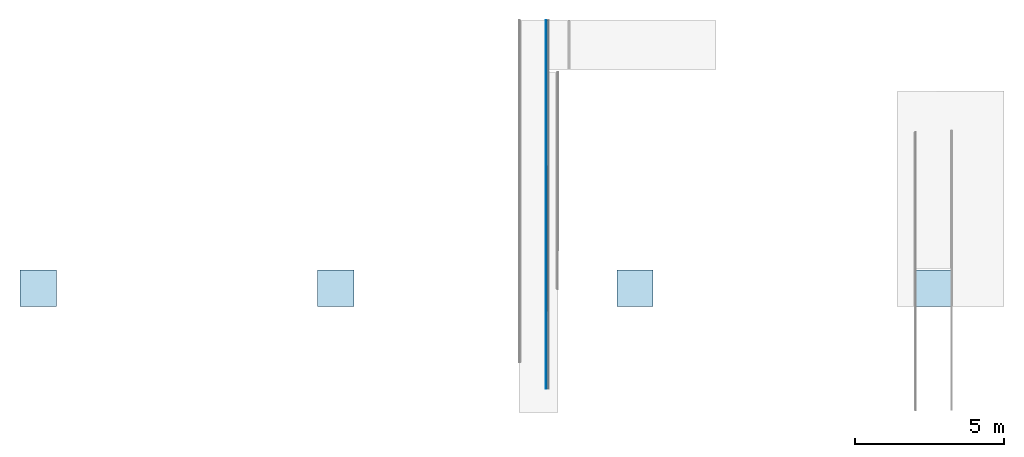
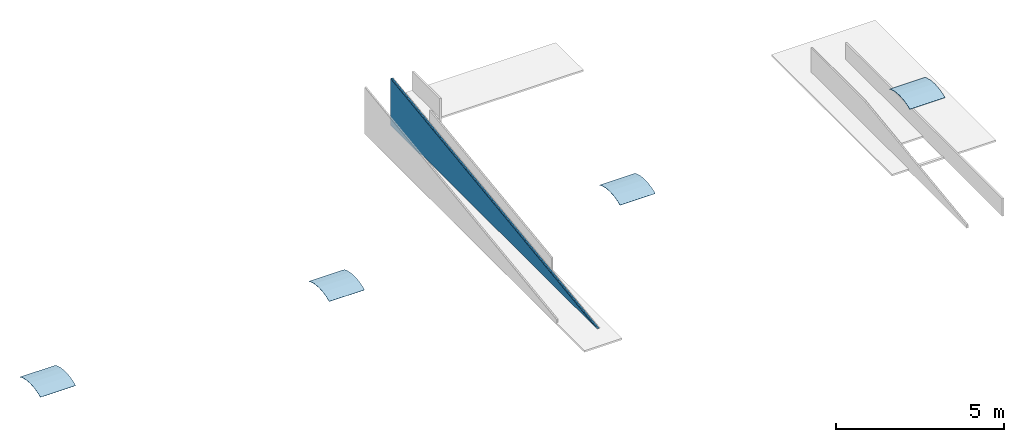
# One storey, part 2 of 4: 4 slabs, 2 building element parts, 1 element without a shape of its own.
"""IFC2X3 building model written with IfcOpenShell, lengths in metres."""

import ifcopenshell
import ifcopenshell.guid

model = None  # the IFC model being written
_history = None  # IfcOwnerHistory: only IFC2X3 demands one
_inside = {}  # id of a spatial element -> (the spatial element, [elements in it])
_under = {}  # id of a project, library or spatial element -> (it, [spatial elements below it])
_declared = {}  # id of a project -> (the project, [libraries it declares])
_typed = {}  # id of a type object -> (the type object, [elements of that type])
_made_of = {}  # id of a material, layer set ... -> (it, [elements and type objects made of it])


def new_model(schema):
    """Start an empty IFC model of exactly this schema.

    Asked for "IFC4X3", IfcOpenShell would pick the latest addendum, in which some entities
    have other attributes; the version numbers below select the first issue.
    IFC2X3 requires an IfcOwnerHistory on every rooted entity: one is made here for all.
    """
    global model, _history
    if schema == "IFC4X3":
        model = ifcopenshell.file(schema_version=(4, 3, 0, 0))
    else:
        model = ifcopenshell.file(schema=schema)
    _inside.clear()
    _under.clear()
    _declared.clear()
    _typed.clear()
    _made_of.clear()
    _history = None
    if model.schema == "IFC2X3":
        org = make("IfcOrganization", Name="unknown")
        user = make(
            "IfcPersonAndOrganization",
            ThePerson=make("IfcPerson", FamilyName="unknown"),
            TheOrganization=org,
        )
        app = make(
            "IfcApplication",
            ApplicationDeveloper=org,
            Version="unknown",
            ApplicationFullName="unknown",
            ApplicationIdentifier="unknown",
        )
        _history = make(
            "IfcOwnerHistory",
            OwningUser=user,
            OwningApplication=app,
            ChangeAction="ADDED",
            CreationDate=0,
        )
    return model


def make(cls, **values):
    """One entity of the class cls with the attributes given. An attribute that is None is left unset."""
    return model.create_entity(
        cls, **{name: value for name, value in values.items() if value is not None}
    )


def entity(cls, *values):
    """Any entity or typed value of the class cls, its attributes in the order of the schema. None: left unset."""
    e = model.create_entity(cls)
    for i, value in enumerate(values):
        if value is not None:
            e[i] = value
    return e


def rooted(cls, **values):
    """An entity with a GlobalId (a new one), such as an element, a storey or a relation."""
    return make(cls, GlobalId=ifcopenshell.guid.new(), OwnerHistory=_history, **values)


def si_unit(unit_type, name, prefix=None):
    """IfcSIUnit, for example si_unit("LENGTHUNIT", "METRE", prefix="MILLI")."""
    return make("IfcSIUnit", UnitType=unit_type, Prefix=prefix, Name=name)


def converted_unit(unit_type, name, factor, base, dimensions=None, offset=None):
    """IfcConversionBasedUnit, such as the inch: factor (a typed value) times the base unit."""
    return make(
        "IfcConversionBasedUnit"
        if offset is None
        else "IfcConversionBasedUnitWithOffset",
        ConversionOffset=offset,
        Dimensions=None
        if dimensions is None
        else entity("IfcDimensionalExponents", *dimensions),
        UnitType=unit_type,
        Name=name,
        ConversionFactor=make(
            "IfcMeasureWithUnit", ValueComponent=factor, UnitComponent=base
        ),
    )


def derived_unit(unit_type, elements):
    """IfcDerivedUnit: a product of units, each with its exponent."""
    return make(
        "IfcDerivedUnit",
        Elements=[
            make("IfcDerivedUnitElement", Unit=unit, Exponent=power)
            for unit, power in elements
        ],
        UnitType=unit_type,
    )


def money_unit(currency):
    """IfcMonetaryUnit."""
    return make("IfcMonetaryUnit", Currency=currency)


def assignment(units):
    """IfcUnitAssignment: the units of a project."""
    return None if units is None else make("IfcUnitAssignment", Units=units)


def point(xyz):
    """IfcCartesianPoint."""
    return None if xyz is None else make("IfcCartesianPoint", Coordinates=xyz)


def direction(xyz):
    """IfcDirection."""
    return None if xyz is None else make("IfcDirection", DirectionRatios=xyz)


def frame(location, z_axis=None, x_axis=None):
    """IfcAxis2Placement3D, a coordinate frame: its origin and axes. An axis left out is left unset."""
    return make(
        "IfcAxis2Placement3D",
        Location=point(location),
        Axis=direction(z_axis),
        RefDirection=direction(x_axis),
    )


def origin_with_axes():
    """The frame at (0, 0, 0) with the z axis (0, 0, 1) and the x axis (1, 0, 0) written out."""
    return frame((0.0, 0.0, 0.0), z_axis=(0.0, 0.0, 1.0), x_axis=(1.0, 0.0, 0.0))


def place(relative_to, where):
    """IfcLocalPlacement: puts the frame where relative to a parent placement (None: the world)."""
    return make(
        "IfcLocalPlacement", PlacementRelTo=relative_to, RelativePlacement=where
    )


def context(
    kind, dimensions, precision=None, world=None, true_north=None, identifier=None
):
    """IfcGeometricRepresentationContext, for example the 3D "Model" context."""
    return make(
        "IfcGeometricRepresentationContext",
        ContextIdentifier=identifier,
        ContextType=kind,
        CoordinateSpaceDimension=dimensions,
        Precision=precision,
        WorldCoordinateSystem=world,
        TrueNorth=true_north,
    )


def subcontext(parent, identifier, kind, view, scale=None):
    """IfcGeometricRepresentationSubContext, for example "Body" below "Model"."""
    return make(
        "IfcGeometricRepresentationSubContext",
        ContextIdentifier=identifier,
        ContextType=kind,
        ParentContext=parent,
        TargetScale=scale,
        TargetView=view,
    )


def project(units=None, contexts=None):
    """IfcProject with its units and contexts."""
    return rooted(
        "IfcProject",
        Name="project",
        RepresentationContexts=contexts,
        UnitsInContext=assignment(units),
    )


def spatial(cls, under=None, at=None, **own):
    """A site, building, storey or space (cls), placed at a placement, below another one or the project."""
    s = rooted(cls, ObjectPlacement=at, **own)
    if under is not None:
        _under.setdefault(under.id(), (under, []))[1].append(s)
    return s


def polyline(points):
    """IfcPolyline through the points."""
    return make("IfcPolyline", Points=[point(p) for p in points])


def outline(outer, holes=None, kind="AREA"):
    """IfcArbitraryClosedProfileDef: a profile drawn as a closed curve; with holes, ...WithVoids."""
    if holes is None:
        return make("IfcArbitraryClosedProfileDef", ProfileType=kind, OuterCurve=outer)
    return make(
        "IfcArbitraryProfileDefWithVoids",
        ProfileType=kind,
        OuterCurve=outer,
        InnerCurves=holes,
    )


def extrude(swept, where, along, depth):
    """IfcExtrudedAreaSolid: the profile swept, set in the frame where, extruded along a direction by depth."""
    return make(
        "IfcExtrudedAreaSolid",
        SweptArea=swept,
        Position=where,
        ExtrudedDirection=direction(along),
        Depth=depth,
    )


def boolean(op, a, b):
    """IfcBooleanResult of two solids."""
    return make("IfcBooleanResult", Operator=op, FirstOperand=a, SecondOperand=b)


def faces_of(points, faces, orient=None, outer=None):
    """IfcFace entities. A face is a list of loops; a loop is a list of indices into points, from 0.

    orient and outer hold one flag for each loop. By default every Orientation is true, the
    first loop of a face is its IfcFaceOuterBound and the others are IfcFaceBound.
    """
    made = []
    for i, loops in enumerate(faces):
        bounds = []
        for j, loop in enumerate(loops):
            is_outer = j == 0 if outer is None else outer[i][j]
            bounds.append(
                make(
                    "IfcFaceOuterBound" if is_outer else "IfcFaceBound",
                    Bound=make("IfcPolyLoop", Polygon=[points[k] for k in loop]),
                    Orientation=True if orient is None else orient[i][j],
                )
            )
        made.append(make("IfcFace", Bounds=bounds))
    return made


def faceted_brep(points, faces, orient=None, outer=None, voids=None):
    """IfcFacetedBrep: a solid bounded by flat faces; with voids (closed shells), ...WithVoids."""
    shared = [point(p) for p in points]
    hull = make("IfcClosedShell", CfsFaces=faces_of(shared, faces, orient, outer))
    if voids is None:
        return make("IfcFacetedBrep", Outer=hull)
    return make(
        "IfcFacetedBrepWithVoids",
        Outer=hull,
        Voids=[
            make(cls, CfsFaces=faces_of(shared, fs, o, b)) for cls, fs, o, b in voids
        ],
    )


def shape(context_of_items, identifier, shape_type, items):
    """IfcShapeRepresentation: the items that make up one representation, for example the "Body"."""
    return make(
        "IfcShapeRepresentation",
        ContextOfItems=context_of_items,
        RepresentationIdentifier=identifier,
        RepresentationType=shape_type,
        Items=items,
    )


def material(Name=None, Category=None):
    """IfcMaterial."""
    return make("IfcMaterial", Name=Name, Category=Category)


def made_of(thing, what):
    """Note that an element or type object is made of a material, layer set ...; save() writes the relation."""
    if what is not None:
        _made_of.setdefault(what.id(), (what, []))[1].append(thing)
    return thing


def type_object(cls, material=None, **own):
    """A type object (cls), such as IfcWallType, which elements share."""
    return made_of(rooted(cls, **own), material)


def element(
    cls,
    number,
    at=None,
    inside=None,
    cuts=None,
    type_object=None,
    material=None,
    context=None,
    identifier="Body",
    shape_type=None,
    held_by="IfcProductDefinitionShape",
    body=None,
    shapes=None,
    **own,
):
    """One element of the class cls, such as IfcWall. Its Tag is "e" and its number.

    at: its placement. inside: the storey or other place that contains it. cuts: it is an
    opening in that element (IfcRelVoidsElement). A single representation is given by context,
    identifier, shape_type and body (its items); several are given by shapes. held_by: the class
    of the entity that holds the representations. save() writes the other relations.
    """
    e = rooted(cls, Tag="e%d" % number, ObjectPlacement=at, **own)
    if body is not None:
        shapes = [shape(context, identifier, shape_type, body)]
    if shapes is not None:
        e.Representation = make(held_by, Representations=shapes)
    if inside is not None:
        _inside.setdefault(inside.id(), (inside, []))[1].append(e)
    if cuts is not None:
        rooted(
            "IfcRelVoidsElement", RelatingBuildingElement=cuts, RelatedOpeningElement=e
        )
    if type_object is not None:
        _typed.setdefault(type_object.id(), (type_object, []))[1].append(e)
    return made_of(e, material)


def aggregate(whole, parts):
    """IfcRelAggregates: a whole, such as a stair, and the parts it consists of."""
    return rooted("IfcRelAggregates", RelatingObject=whole, RelatedObjects=parts)


def save(model, path):
    """Write the relations noted so far, then the file.

    IfcRelAggregates (storeys below a building ...), IfcRelContainedInSpatialStructure (elements
    in a storey), IfcRelDefinesByType, IfcRelAssociatesMaterial and IfcRelDeclares: one each for
    every whole, place, type object, material and project.
    """
    for whole, parts in _under.values():
        aggregate(whole, parts)
    for where, things in _inside.values():
        rooted(
            "IfcRelContainedInSpatialStructure",
            RelatedElements=things,
            RelatingStructure=where,
        )
    for kind, things in _typed.values():
        rooted("IfcRelDefinesByType", RelatedObjects=things, RelatingType=kind)
    for what, things in _made_of.values():
        rooted("IfcRelAssociatesMaterial", RelatedObjects=things, RelatingMaterial=what)
    for by, libraries in _declared.values():
        rooted("IfcRelDeclares", RelatingContext=by, RelatedDefinitions=libraries)
    model.write(path)


model = new_model("IFC2X3")

# Units and contexts
model_context = context("Model", 3, precision=1e-05, world=origin_with_axes(), true_north=direction((0.0, 1.0)))
body_context = subcontext(model_context, "Body", "Model", "MODEL_VIEW")
ifc_project = project(units=[si_unit("LENGTHUNIT", "METRE"), si_unit("AREAUNIT", "SQUARE_METRE"), si_unit("VOLUMEUNIT", "CUBIC_METRE"), converted_unit("PLANEANGLEUNIT", "DEGREE", entity("IfcPlaneAngleMeasure", 0.0174532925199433), si_unit("PLANEANGLEUNIT", "RADIAN"), dimensions=[0, 0, 0, 0, 0, 0, 0]), money_unit("CHF"), converted_unit("TIMEUNIT", "Year", entity("IfcTimeMeasure", 31557600.0), si_unit("TIMEUNIT", "SECOND"), dimensions=[0, 0, 1, 0, 0, 0, 0]), si_unit("MASSUNIT", "GRAM", prefix="KILO"), si_unit("THERMODYNAMICTEMPERATUREUNIT", "DEGREE_CELSIUS"), si_unit("LUMINOUSINTENSITYUNIT", "LUMEN"), si_unit("ENERGYUNIT", "JOULE", prefix="MEGA"), derived_unit("THERMALCONDUCTANCEUNIT", [(si_unit("POWERUNIT", "WATT"), 1), (si_unit("LENGTHUNIT", "METRE"), -1), (si_unit("THERMODYNAMICTEMPERATUREUNIT", "KELVIN"), -1)]), derived_unit("SPECIFICHEATCAPACITYUNIT", [(si_unit("ENERGYUNIT", "JOULE"), 1), (si_unit("MASSUNIT", "GRAM", prefix="KILO"), -1), (si_unit("THERMODYNAMICTEMPERATUREUNIT", "KELVIN"), -1)]), derived_unit("MASSDENSITYUNIT", [(si_unit("MASSUNIT", "GRAM", prefix="KILO"), 1), (si_unit("VOLUMEUNIT", "CUBIC_METRE"), -1)])], contexts=[model_context])

# Site, building, storey
site_placement = place(None, origin_with_axes())
site = spatial("IfcSite", under=ifc_project, at=site_placement, Name="Site", CompositionType="ELEMENT")
building_placement = place(site_placement, origin_with_axes())
building = spatial("IfcBuilding", under=site, at=building_placement, Name="Bâtiment", CompositionType="ELEMENT")
storey_placement = place(building_placement, frame((0.0, 0.0, 4.85), z_axis=(0.0, 0.0, 1.0), x_axis=(1.0, 0.0, 0.0)))
storey = spatial("IfcBuildingStorey", under=building, at=storey_placement, Name="1er étage", CompositionType="ELEMENT", Elevation=4.85)

# Slabs
ifc_material_1 = material(Name="Vitrage")
slab_type = type_object("IfcSlabType", Name="Vitrage 10", PredefinedType="ROOF")
slab_1_placement = place(storey_placement, frame((0.0, 0.0, -4.85), z_axis=(0.0, 0.0, 1.0), x_axis=(1.0, 0.0, 0.0)))
element("IfcSlab", 1, at=slab_1_placement, inside=storey, type_object=slab_type, material=ifc_material_1, Name="COQUE-008", PredefinedType="ROOF", context=body_context, shape_type="Brep", body=[
    faceted_brep([(10.43095020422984, 14.52359783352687, 4.939206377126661), (10.43095020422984, 14.63941148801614, 4.992402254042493), (9.214885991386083, 14.63941148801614, 4.992402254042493), (10.43095020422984, 14.52777181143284, 4.9301191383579), (10.43095020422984, 14.64279043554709, 4.982949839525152), (10.43095020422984, 14.88768081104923, 5.047060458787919), (10.43095020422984, 15.13998344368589, 5.067672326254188), (10.43095020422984, 15.3920322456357, 5.044159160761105), (10.43095020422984, 15.63616460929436, 4.977236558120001), (10.43095020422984, 15.73548684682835, 4.93011844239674), (10.43095020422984, 15.7396611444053, 4.939206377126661), (10.43095020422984, 15.63965631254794, 4.986648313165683), (10.43095020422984, 15.39383219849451, 5.054034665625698), (10.43095020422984, 15.14004118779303, 5.077710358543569), (10.43095020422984, 14.88599459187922, 5.056956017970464), (9.214885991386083, 14.88599459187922, 5.056956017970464), (9.214885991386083, 14.52359783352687, 4.939206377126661), (9.214885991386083, 14.64279043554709, 4.982949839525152), (9.214885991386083, 14.88768081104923, 5.047060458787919), (9.214885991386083, 15.13998344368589, 5.067672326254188), (9.214885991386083, 15.3920322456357, 5.044159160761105), (9.214885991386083, 15.63616460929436, 4.977236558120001), (9.214885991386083, 15.73548684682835, 4.93011844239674), (9.214885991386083, 15.7396611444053, 4.939206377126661), (9.214885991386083, 15.63965631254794, 4.986648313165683), (9.214885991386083, 15.39383219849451, 5.054034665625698), (9.214885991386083, 15.14004118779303, 5.077710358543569), (9.214885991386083, 14.52777181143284, 4.9301191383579)], [[[0, 1, 2]], [[1, 0, 3, 4, 5, 6, 7, 8, 9, 10, 11, 12, 13, 14]], [[15, 2, 1]], [[2, 16, 0]], [[0, 16, 3]], [[3, 17, 4]], [[4, 18, 5]], [[5, 19, 6]], [[6, 20, 7]], [[7, 21, 8]], [[8, 22, 9]], [[23, 10, 9]], [[11, 10, 23]], [[12, 11, 24]], [[13, 12, 25]], [[14, 13, 26]], [[1, 14, 15]], [[16, 2, 15, 26, 25, 24, 23, 22, 21, 20, 19, 18, 17, 27]], [[3, 16, 27]], [[17, 3, 27]], [[18, 4, 17]], [[19, 5, 18]], [[20, 6, 19]], [[21, 7, 20]], [[22, 8, 21]], [[23, 9, 22]], [[23, 24, 11]], [[24, 25, 12]], [[25, 26, 13]], [[26, 15, 14]]]),
])
slab_2_placement = place(storey_placement, frame((0.0, 0.0, -4.85), z_axis=(0.0, 0.0, 1.0), x_axis=(1.0, 0.0, 0.0)))
element("IfcSlab", 2, at=slab_2_placement, inside=storey, type_object=slab_type, material=ifc_material_1, Name="COQUE-008", PredefinedType="ROOF", context=body_context, shape_type="Brep", body=[
    faceted_brep([(20.38080163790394, 14.52359783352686, 4.939206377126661), (20.38080163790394, 14.63941148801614, 4.992402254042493), (19.16473742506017, 14.63941148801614, 4.992402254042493), (20.38080163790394, 14.52777181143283, 4.9301191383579), (20.38080163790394, 14.64279043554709, 4.982949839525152), (20.38080163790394, 14.88768081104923, 5.047060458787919), (20.38080163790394, 15.13998344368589, 5.067672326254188), (20.38080163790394, 15.3920322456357, 5.044159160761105), (20.38080163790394, 15.63616460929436, 4.977236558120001), (20.38080163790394, 15.73548684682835, 4.93011844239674), (20.38080163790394, 15.7396611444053, 4.939206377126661), (20.38080163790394, 15.63965631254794, 4.986648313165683), (20.38080163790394, 15.39383219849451, 5.054034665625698), (20.38080163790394, 15.14004118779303, 5.077710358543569), (20.38080163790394, 14.88599459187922, 5.056956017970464), (19.16473742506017, 14.88599459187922, 5.056956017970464), (19.16473742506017, 14.52359783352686, 4.939206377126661), (19.16473742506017, 14.64279043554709, 4.982949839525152), (19.16473742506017, 14.88768081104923, 5.047060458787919), (19.16473742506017, 15.13998344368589, 5.067672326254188), (19.16473742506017, 15.39203224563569, 5.044159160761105), (19.16473742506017, 15.63616460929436, 4.977236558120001), (19.16473742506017, 15.73548684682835, 4.93011844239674), (19.16473742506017, 15.7396611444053, 4.939206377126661), (19.16473742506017, 15.63965631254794, 4.986648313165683), (19.16473742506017, 15.39383219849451, 5.054034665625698), (19.16473742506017, 15.14004118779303, 5.077710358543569), (19.16473742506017, 14.52777181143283, 4.9301191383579)], [[[0, 1, 2]], [[1, 0, 3, 4, 5, 6, 7, 8, 9, 10, 11, 12, 13, 14]], [[15, 2, 1]], [[2, 16, 0]], [[0, 16, 3]], [[3, 17, 4]], [[4, 18, 5]], [[5, 19, 6]], [[6, 20, 7]], [[7, 21, 8]], [[8, 22, 9]], [[23, 10, 9]], [[11, 10, 23]], [[12, 11, 24]], [[13, 12, 25]], [[14, 13, 26]], [[1, 14, 15]], [[16, 2, 15, 26, 25, 24, 23, 22, 21, 20, 19, 18, 17, 27]], [[3, 16, 27]], [[17, 3, 27]], [[18, 4, 17]], [[19, 5, 18]], [[20, 6, 19]], [[21, 7, 20]], [[22, 8, 21]], [[23, 9, 22]], [[23, 24, 11]], [[24, 25, 12]], [[25, 26, 13]], [[26, 15, 14]]]),
])
slab_3_placement = place(storey_placement, frame((0.0, 0.0, -4.85), z_axis=(0.0, 0.0, 1.0), x_axis=(1.0, 0.0, 0.0)))
element("IfcSlab", 3, at=slab_3_placement, inside=storey, type_object=slab_type, material=ifc_material_1, Name="COQUE-008", PredefinedType="ROOF", context=body_context, shape_type="Brep", body=[
    faceted_brep([(30.39612928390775, 14.52359783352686, 4.939206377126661), (30.39612928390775, 14.63941148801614, 4.992402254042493), (29.18006507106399, 14.63941148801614, 4.992402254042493), (30.39612928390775, 14.52777181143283, 4.9301191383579), (30.39612928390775, 14.64279043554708, 4.982949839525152), (30.39612928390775, 14.88768081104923, 5.047060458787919), (30.39612928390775, 15.13998344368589, 5.067672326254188), (30.39612928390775, 15.39203224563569, 5.044159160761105), (30.39612928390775, 15.63616460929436, 4.977236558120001), (30.39612928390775, 15.73548684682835, 4.93011844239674), (30.39612928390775, 15.7396611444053, 4.939206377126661), (30.39612928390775, 15.63965631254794, 4.986648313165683), (30.39612928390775, 15.39383219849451, 5.054034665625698), (30.39612928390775, 15.14004118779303, 5.077710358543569), (30.39612928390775, 14.88599459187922, 5.056956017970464), (29.18006507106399, 14.88599459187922, 5.056956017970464), (29.18006507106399, 14.52359783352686, 4.939206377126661), (29.18006507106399, 14.64279043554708, 4.982949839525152), (29.18006507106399, 14.88768081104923, 5.047060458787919), (29.18006507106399, 15.13998344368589, 5.067672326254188), (29.18006507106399, 15.39203224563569, 5.044159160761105), (29.18006507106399, 15.63616460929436, 4.977236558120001), (29.18006507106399, 15.73548684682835, 4.93011844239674), (29.18006507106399, 15.7396611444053, 4.939206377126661), (29.18006507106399, 15.63965631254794, 4.986648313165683), (29.18006507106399, 15.39383219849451, 5.054034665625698), (29.18006507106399, 15.14004118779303, 5.077710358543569), (29.18006507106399, 14.52777181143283, 4.9301191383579)], [[[0, 1, 2]], [[1, 0, 3, 4, 5, 6, 7, 8, 9, 10, 11, 12, 13, 14]], [[15, 2, 1]], [[2, 16, 0]], [[0, 16, 3]], [[3, 17, 4]], [[4, 18, 5]], [[5, 19, 6]], [[6, 20, 7]], [[7, 21, 8]], [[8, 22, 9]], [[23, 10, 9]], [[11, 10, 23]], [[12, 11, 24]], [[13, 12, 25]], [[14, 13, 26]], [[1, 14, 15]], [[16, 2, 15, 26, 25, 24, 23, 22, 21, 20, 19, 18, 17, 27]], [[3, 16, 27]], [[17, 3, 27]], [[18, 4, 17]], [[19, 5, 18]], [[20, 6, 19]], [[21, 7, 20]], [[22, 8, 21]], [[23, 9, 22]], [[23, 24, 11]], [[24, 25, 12]], [[25, 26, 13]], [[26, 15, 14]]]),
])
slab_4_placement = place(storey_placement, frame((0.0, 0.0, -4.85), z_axis=(0.0, 0.0, 1.0), x_axis=(1.0, 0.0, 0.0)))
element("IfcSlab", 4, at=slab_4_placement, inside=storey, type_object=slab_type, material=ifc_material_1, Name="COQUE-008", PredefinedType="ROOF", context=body_context, shape_type="Brep", body=[
    faceted_brep([(40.37637428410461, 14.52359783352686, 4.939206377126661), (40.37637428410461, 14.63941148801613, 4.992402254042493), (39.16031007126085, 14.63941148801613, 4.992402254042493), (40.37637428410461, 14.52777181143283, 4.9301191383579), (40.37637428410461, 14.64279043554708, 4.982949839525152), (40.37637428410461, 14.88768081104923, 5.047060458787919), (40.37637428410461, 15.13998344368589, 5.067672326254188), (40.37637428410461, 15.39203224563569, 5.044159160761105), (40.37637428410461, 15.63616460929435, 4.977236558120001), (40.37637428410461, 15.73548684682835, 4.93011844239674), (40.37637428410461, 15.7396611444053, 4.939206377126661), (40.37637428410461, 15.63965631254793, 4.986648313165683), (40.37637428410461, 15.3938321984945, 5.054034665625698), (40.37637428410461, 15.14004118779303, 5.077710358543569), (40.37637428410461, 14.88599459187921, 5.056956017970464), (39.16031007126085, 14.88599459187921, 5.056956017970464), (39.16031007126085, 14.52359783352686, 4.939206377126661), (39.16031007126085, 14.64279043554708, 4.982949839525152), (39.16031007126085, 14.88768081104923, 5.047060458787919), (39.16031007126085, 15.13998344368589, 5.067672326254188), (39.16031007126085, 15.39203224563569, 5.044159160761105), (39.16031007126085, 15.63616460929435, 4.977236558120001), (39.16031007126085, 15.73548684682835, 4.93011844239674), (39.16031007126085, 15.7396611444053, 4.939206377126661), (39.16031007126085, 15.63965631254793, 4.986648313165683), (39.16031007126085, 15.3938321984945, 5.054034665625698), (39.16031007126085, 15.14004118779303, 5.077710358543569), (39.16031007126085, 14.52777181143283, 4.9301191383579)], [[[0, 1, 2]], [[1, 0, 3, 4, 5, 6, 7, 8, 9, 10, 11, 12, 13, 14]], [[15, 2, 1]], [[2, 16, 0]], [[0, 16, 3]], [[3, 17, 4]], [[4, 18, 5]], [[5, 19, 6]], [[6, 20, 7]], [[7, 21, 8]], [[8, 22, 9]], [[23, 10, 9]], [[11, 10, 23]], [[12, 11, 24]], [[13, 12, 25]], [[14, 13, 26]], [[1, 14, 15]], [[16, 2, 15, 26, 25, 24, 23, 22, 21, 20, 19, 18, 17, 27]], [[3, 16, 27]], [[17, 3, 27]], [[18, 4, 17]], [[19, 5, 18]], [[20, 6, 19]], [[21, 7, 20]], [[22, 8, 21]], [[23, 9, 22]], [[23, 24, 11]], [[24, 25, 12]], [[25, 26, 13]], [[26, 15, 14]]]),
])

# Wall, building element parts
wall_type = type_object("IfcWallType", Name="AL - Cloison: structure + 2x2 faces 99", PredefinedType="ELEMENTEDWALL")
wall_placement = place(storey_placement, frame((26.90543336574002, 24.12972373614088, -1.980000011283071), z_axis=(0.0, 0.0, 1.0), x_axis=(0.0, -1.0, 0.0)))
wall = element("IfcWall", 5, at=wall_placement, inside=storey, type_object=wall_type, Name="MUR_EXT-018", ObjectType="ELEMENTEDWALL")
ifc_material_2 = material(Name="Finition int - Plaque de plâtre")
building_element_part_1_placement = place(wall_placement, origin_with_axes())
building_element_part_1 = element("IfcBuildingElementPart", 6, at=building_element_part_1_placement, material=ifc_material_2, Name="Finition int - Plaque de plâtre", context=body_context, shape_type="CSG", body=[
    boolean("DIFFERENCE", boolean("DIFFERENCE", boolean("DIFFERENCE", boolean("DIFFERENCE", boolean("DIFFERENCE", extrude(outline(polyline([(0.0, -0.0990000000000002), (13.0729033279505, -0.0990000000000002), (13.0729033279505, -0.08650000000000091), (0.0, -0.08650000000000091), (0.0, -0.0990000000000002)])), origin_with_axes(), (0.0, 0.0, 1.0), 1.713257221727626), faceted_brep([(1.77397987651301, -0.08650000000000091, 0.06050000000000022), (12.35811315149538, -0.08650000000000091, 0.06050000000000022), (0.01999361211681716, -0.08650000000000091, 1.705568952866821), (0.01999361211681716, -0.08650000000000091, 0.0), (0.0, -0.08650000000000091, 0.0), (0.0, -0.08650000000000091, 1.713257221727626), (13.0729033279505, -0.08650000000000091, 1.713257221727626), (13.0729033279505, -0.08650000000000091, 0.0), (1.77397987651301, -0.08650000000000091, 0.0), (1.774004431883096, -0.09899999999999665, 0.06050000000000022), (12.35809958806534, -0.0990000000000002, 0.06050000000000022), (0.01999361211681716, -0.0990000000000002, 1.70556714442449), (0.01999361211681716, -0.0990000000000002, 0.0), (0.0, -0.0990000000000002, 0.0), (0.0, -0.0990000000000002, 1.713257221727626), (13.0729033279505, -0.0990000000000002, 1.713257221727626), (13.0729033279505, -0.0990000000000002, 0.0), (1.774004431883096, -0.09899999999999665, 0.0)], [[[0, 1, 2, 3, 4, 5, 6, 7, 8]], [[1, 0, 9, 10]], [[2, 1, 10, 11]], [[3, 2, 11, 12]], [[3, 12, 13, 4]], [[5, 4, 13, 14]], [[5, 14, 15, 6]], [[15, 16, 7, 6]], [[17, 8, 7, 16]], [[0, 8, 17, 9]], [[9, 17, 16, 15, 14, 13, 12, 11, 10]]])), faceted_brep([(1.773955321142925, -0.07400000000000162, 0.06050000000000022), (12.35812671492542, -0.07400000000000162, 0.06050000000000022), (0.01999361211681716, -0.07400000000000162, 1.705570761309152), (0.01999361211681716, -0.07400000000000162, 0.0), (0.0, -0.07400000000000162, 0.0), (0.0, -0.07400000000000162, 1.713257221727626), (13.0729033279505, -0.07400000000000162, 1.713257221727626), (13.0729033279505, -0.07400000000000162, 0.0), (1.773955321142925, -0.07400000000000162, 0.0), (1.77397987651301, -0.08650000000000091, 0.06050000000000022), (12.35811315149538, -0.08650000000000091, 0.06050000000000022), (0.01999361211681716, -0.08650000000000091, 1.705568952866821), (0.01999361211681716, -0.08650000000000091, 0.0), (0.0, -0.08650000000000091, 0.0), (0.0, -0.08650000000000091, 1.713257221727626), (13.0729033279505, -0.08650000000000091, 1.713257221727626), (13.0729033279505, -0.08650000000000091, 0.0), (1.77397987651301, -0.08650000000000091, 0.0)], [[[0, 1, 2, 3, 4, 5, 6, 7, 8]], [[9, 10, 1, 0]], [[2, 1, 10, 11]], [[12, 3, 2, 11]], [[3, 12, 13, 4]], [[5, 4, 13, 14]], [[5, 14, 15, 6]], [[15, 16, 7, 6]], [[17, 8, 7, 16]], [[8, 17, 9, 0]], [[9, 17, 16, 15, 14, 13, 12, 11, 10]]])), faceted_brep([(1.749004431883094, -0.0259999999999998, 1.475044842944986), (1.701004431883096, -0.0259999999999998, 1.481444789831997), (0.01999361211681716, -0.0259999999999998, 1.705577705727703), (0.01999361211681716, -0.0259999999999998, 0.0), (0.0, -0.0259999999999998, 0.0), (0.0, -0.0259999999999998, 1.713257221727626), (13.0729033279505, -0.0259999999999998, 1.713257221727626), (13.0729033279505, -0.0259999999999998, 0.0), (1.773861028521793, -0.0259999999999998, 0.0), (1.773861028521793, -0.0259999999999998, 0.06050000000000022), (12.35817879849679, -0.02600000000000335, 0.06050000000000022), (12.35812671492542, -0.07400000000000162, 0.06050000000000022), (0.01999361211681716, -0.07400000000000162, 1.705570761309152), (0.01999361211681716, -0.07400000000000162, 0.0), (0.0, -0.07400000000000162, 0.0), (0.0, -0.07400000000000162, 1.713257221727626), (13.0729033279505, -0.07400000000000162, 1.713257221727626), (13.0729033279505, -0.07400000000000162, 0.0), (1.773955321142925, -0.07400000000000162, 0.0), (1.773955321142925, -0.07400000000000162, 0.06050000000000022)], [[[0, 1, 2, 3, 4, 5, 6, 7, 8, 9, 10]], [[2, 1, 0, 10, 11, 12]], [[13, 3, 2, 12]], [[3, 13, 14, 4]], [[5, 4, 14, 15]], [[5, 15, 16, 6]], [[16, 17, 7, 6]], [[18, 8, 7, 17]], [[8, 18, 19, 9]], [[10, 9, 19, 11]], [[19, 18, 17, 16, 15, 14, 13, 12, 11]]])), faceted_brep([(1.701004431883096, -0.01299999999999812, 1.48144667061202), (1.688004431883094, -0.01299999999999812, 1.483179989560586), (0.01999361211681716, -0.01300000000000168, 1.705579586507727), (0.01999361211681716, -0.01300000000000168, 0.0), (0.0, -0.01300000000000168, 0.0), (0.0, -0.01300000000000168, 1.713257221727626), (13.0729033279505, -0.01300000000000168, 1.713257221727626), (13.0729033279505, -0.01300000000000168, 0.0), (1.7738354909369, -0.01300000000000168, 0.0), (1.7738354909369, -0.01300000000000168, 0.06050000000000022), (12.35819290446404, -0.01300000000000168, 0.06050000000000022), (1.761504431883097, -0.01299999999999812, 1.473380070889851), (1.749004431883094, -0.01299999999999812, 1.47504672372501), (1.749004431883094, -0.01300000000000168, 0.0), (1.701004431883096, -0.01300000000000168, 0.0), (1.701004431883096, -0.0259999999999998, 1.481444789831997), (0.01999361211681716, -0.0259999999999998, 1.705577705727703), (0.01999361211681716, -0.0259999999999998, 0.0), (0.0, -0.0259999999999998, 0.0), (0.0, -0.0259999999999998, 1.713257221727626), (13.0729033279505, -0.0259999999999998, 1.713257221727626), (13.0729033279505, -0.0259999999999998, 0.0), (1.773861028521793, -0.0259999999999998, 0.0), (1.773861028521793, -0.0259999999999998, 0.06050000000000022), (12.35817879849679, -0.02600000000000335, 0.06050000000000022), (1.749004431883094, -0.0259999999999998, 1.475044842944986), (1.749004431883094, -0.0259999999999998, 0.0), (1.701004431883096, -0.0259999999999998, 0.0)], [[[0, 1, 2, 3, 4, 5, 6, 7, 8, 9, 10, 11, 12, 13, 14]], [[2, 1, 0, 15, 16]], [[3, 2, 16, 17]], [[3, 17, 18, 4]], [[5, 4, 18, 19]], [[5, 19, 20, 6]], [[20, 21, 7, 6]], [[22, 8, 7, 21]], [[9, 8, 22, 23]], [[10, 9, 23, 24]], [[12, 11, 10, 24, 25]], [[13, 12, 25, 26]], [[27, 14, 13, 26]], [[0, 14, 27, 15]], [[15, 27, 26, 25, 24, 23, 22, 21, 20, 19, 18, 17, 16]]])), faceted_brep([(1.688004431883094, 0.0, 0.0), (1.688004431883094, 0.0, 1.48318187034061), (0.01999361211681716, 0.0, 1.705581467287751), (0.01999361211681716, 0.0, 0.0), (0.0, 0.0, 0.0), (0.0, 0.0, 1.713257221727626), (13.0729033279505, 0.0, 1.713257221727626), (13.0729033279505, 0.0, 0.0), (1.773809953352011, 0.0, 0.0), (1.773809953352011, 0.0, 0.06050000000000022), (12.35820701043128, 0.0, 0.06050000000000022), (1.761504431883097, 0.0, 1.473381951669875), (1.761504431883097, 0.0, 0.0), (1.688004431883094, -0.01300000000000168, 0.0), (1.688004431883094, -0.01299999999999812, 1.483179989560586), (0.01999361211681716, -0.01300000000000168, 1.705579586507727), (0.01999361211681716, -0.01300000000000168, 0.0), (0.0, -0.01300000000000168, 0.0), (0.0, -0.01300000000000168, 1.713257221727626), (13.0729033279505, -0.01300000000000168, 1.713257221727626), (13.0729033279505, -0.01300000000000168, 0.0), (1.7738354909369, -0.01300000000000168, 0.0), (1.7738354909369, -0.01300000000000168, 0.06050000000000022), (12.35819290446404, -0.01300000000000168, 0.06050000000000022), (1.761504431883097, -0.01299999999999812, 1.473380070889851), (1.761504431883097, -0.01300000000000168, 0.0)], [[[0, 1, 2, 3, 4, 5, 6, 7, 8, 9, 10, 11, 12]], [[1, 0, 13, 14]], [[2, 1, 14, 15]], [[3, 2, 15, 16]], [[3, 16, 17, 4]], [[5, 4, 17, 18]], [[5, 18, 19, 6]], [[19, 20, 7, 6]], [[21, 8, 7, 20]], [[9, 8, 21, 22]], [[10, 9, 22, 23]], [[11, 10, 23, 24]], [[12, 11, 24, 25]], [[13, 0, 12, 25]], [[14, 13, 25, 24, 23, 22, 21, 20, 19, 18, 17, 16, 15]]])),
])
ifc_material_3 = material(Name="Cloison - Rail 48")
building_element_part_2_placement = place(wall_placement, origin_with_axes())
building_element_part_2 = element("IfcBuildingElementPart", 7, at=building_element_part_2_placement, material=ifc_material_3, Name="Cloison - Rail 48", context=body_context, shape_type="CSG", body=[
    boolean("DIFFERENCE", boolean("DIFFERENCE", boolean("DIFFERENCE", boolean("DIFFERENCE", boolean("DIFFERENCE", extrude(outline(polyline([(0.0, -0.07400000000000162), (13.0729033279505, -0.07400000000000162), (13.0729033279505, -0.0259999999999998), (0.0, -0.0259999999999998), (0.0, -0.07400000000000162)])), origin_with_axes(), (0.0, 0.0, 1.0), 1.713257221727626), faceted_brep([(1.77397987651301, -0.08650000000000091, 0.06050000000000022), (12.35811315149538, -0.08650000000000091, 0.06050000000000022), (0.01999361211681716, -0.08650000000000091, 1.705568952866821), (0.01999361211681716, -0.08650000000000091, 0.0), (0.0, -0.08650000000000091, 0.0), (0.0, -0.08650000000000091, 1.713257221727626), (13.0729033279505, -0.08650000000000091, 1.713257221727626), (13.0729033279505, -0.08650000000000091, 0.0), (1.77397987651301, -0.08650000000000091, 0.0), (1.774004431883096, -0.09899999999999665, 0.06050000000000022), (12.35809958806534, -0.0990000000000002, 0.06050000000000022), (0.01999361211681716, -0.0990000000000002, 1.70556714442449), (0.01999361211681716, -0.0990000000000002, 0.0), (0.0, -0.0990000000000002, 0.0), (0.0, -0.0990000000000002, 1.713257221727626), (13.0729033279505, -0.0990000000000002, 1.713257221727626), (13.0729033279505, -0.0990000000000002, 0.0), (1.774004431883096, -0.09899999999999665, 0.0)], [[[0, 1, 2, 3, 4, 5, 6, 7, 8]], [[1, 0, 9, 10]], [[2, 1, 10, 11]], [[3, 2, 11, 12]], [[3, 12, 13, 4]], [[5, 4, 13, 14]], [[5, 14, 15, 6]], [[15, 16, 7, 6]], [[17, 8, 7, 16]], [[0, 8, 17, 9]], [[9, 17, 16, 15, 14, 13, 12, 11, 10]]])), faceted_brep([(1.773955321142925, -0.07400000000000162, 0.06050000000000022), (12.35812671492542, -0.07400000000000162, 0.06050000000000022), (0.01999361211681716, -0.07400000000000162, 1.705570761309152), (0.01999361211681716, -0.07400000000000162, 0.0), (0.0, -0.07400000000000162, 0.0), (0.0, -0.07400000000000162, 1.713257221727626), (13.0729033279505, -0.07400000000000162, 1.713257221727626), (13.0729033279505, -0.07400000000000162, 0.0), (1.773955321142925, -0.07400000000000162, 0.0), (1.77397987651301, -0.08650000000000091, 0.06050000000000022), (12.35811315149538, -0.08650000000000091, 0.06050000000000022), (0.01999361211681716, -0.08650000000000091, 1.705568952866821), (0.01999361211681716, -0.08650000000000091, 0.0), (0.0, -0.08650000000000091, 0.0), (0.0, -0.08650000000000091, 1.713257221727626), (13.0729033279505, -0.08650000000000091, 1.713257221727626), (13.0729033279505, -0.08650000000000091, 0.0), (1.77397987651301, -0.08650000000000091, 0.0)], [[[0, 1, 2, 3, 4, 5, 6, 7, 8]], [[9, 10, 1, 0]], [[2, 1, 10, 11]], [[12, 3, 2, 11]], [[3, 12, 13, 4]], [[5, 4, 13, 14]], [[5, 14, 15, 6]], [[15, 16, 7, 6]], [[17, 8, 7, 16]], [[8, 17, 9, 0]], [[9, 17, 16, 15, 14, 13, 12, 11, 10]]])), faceted_brep([(1.749004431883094, -0.0259999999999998, 1.475044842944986), (1.701004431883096, -0.0259999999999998, 1.481444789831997), (0.01999361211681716, -0.0259999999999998, 1.705577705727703), (0.01999361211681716, -0.0259999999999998, 0.0), (0.0, -0.0259999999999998, 0.0), (0.0, -0.0259999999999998, 1.713257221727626), (13.0729033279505, -0.0259999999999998, 1.713257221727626), (13.0729033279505, -0.0259999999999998, 0.0), (1.773861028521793, -0.0259999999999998, 0.0), (1.773861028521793, -0.0259999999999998, 0.06050000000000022), (12.35817879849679, -0.02600000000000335, 0.06050000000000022), (12.35812671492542, -0.07400000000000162, 0.06050000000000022), (0.01999361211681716, -0.07400000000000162, 1.705570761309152), (0.01999361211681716, -0.07400000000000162, 0.0), (0.0, -0.07400000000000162, 0.0), (0.0, -0.07400000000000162, 1.713257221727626), (13.0729033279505, -0.07400000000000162, 1.713257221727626), (13.0729033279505, -0.07400000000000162, 0.0), (1.773955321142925, -0.07400000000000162, 0.0), (1.773955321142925, -0.07400000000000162, 0.06050000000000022)], [[[0, 1, 2, 3, 4, 5, 6, 7, 8, 9, 10]], [[2, 1, 0, 10, 11, 12]], [[13, 3, 2, 12]], [[3, 13, 14, 4]], [[5, 4, 14, 15]], [[5, 15, 16, 6]], [[16, 17, 7, 6]], [[18, 8, 7, 17]], [[8, 18, 19, 9]], [[10, 9, 19, 11]], [[19, 18, 17, 16, 15, 14, 13, 12, 11]]])), faceted_brep([(1.701004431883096, -0.01299999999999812, 1.48144667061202), (1.688004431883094, -0.01299999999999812, 1.483179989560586), (0.01999361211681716, -0.01300000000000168, 1.705579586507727), (0.01999361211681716, -0.01300000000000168, 0.0), (0.0, -0.01300000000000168, 0.0), (0.0, -0.01300000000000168, 1.713257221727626), (13.0729033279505, -0.01300000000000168, 1.713257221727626), (13.0729033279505, -0.01300000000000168, 0.0), (1.7738354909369, -0.01300000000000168, 0.0), (1.7738354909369, -0.01300000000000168, 0.06050000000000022), (12.35819290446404, -0.01300000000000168, 0.06050000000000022), (1.761504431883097, -0.01299999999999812, 1.473380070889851), (1.749004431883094, -0.01299999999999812, 1.47504672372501), (1.749004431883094, -0.01300000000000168, 0.0), (1.701004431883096, -0.01300000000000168, 0.0), (1.701004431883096, -0.0259999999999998, 1.481444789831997), (0.01999361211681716, -0.0259999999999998, 1.705577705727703), (0.01999361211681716, -0.0259999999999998, 0.0), (0.0, -0.0259999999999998, 0.0), (0.0, -0.0259999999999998, 1.713257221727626), (13.0729033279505, -0.0259999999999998, 1.713257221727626), (13.0729033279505, -0.0259999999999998, 0.0), (1.773861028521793, -0.0259999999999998, 0.0), (1.773861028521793, -0.0259999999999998, 0.06050000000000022), (12.35817879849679, -0.02600000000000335, 0.06050000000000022), (1.749004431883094, -0.0259999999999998, 1.475044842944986), (1.749004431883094, -0.0259999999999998, 0.0), (1.701004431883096, -0.0259999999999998, 0.0)], [[[0, 1, 2, 3, 4, 5, 6, 7, 8, 9, 10, 11, 12, 13, 14]], [[2, 1, 0, 15, 16]], [[3, 2, 16, 17]], [[3, 17, 18, 4]], [[5, 4, 18, 19]], [[5, 19, 20, 6]], [[20, 21, 7, 6]], [[22, 8, 7, 21]], [[9, 8, 22, 23]], [[10, 9, 23, 24]], [[12, 11, 10, 24, 25]], [[13, 12, 25, 26]], [[27, 14, 13, 26]], [[0, 14, 27, 15]], [[15, 27, 26, 25, 24, 23, 22, 21, 20, 19, 18, 17, 16]]])), faceted_brep([(1.688004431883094, 0.0, 0.0), (1.688004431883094, 0.0, 1.48318187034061), (0.01999361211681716, 0.0, 1.705581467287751), (0.01999361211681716, 0.0, 0.0), (0.0, 0.0, 0.0), (0.0, 0.0, 1.713257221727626), (13.0729033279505, 0.0, 1.713257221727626), (13.0729033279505, 0.0, 0.0), (1.773809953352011, 0.0, 0.0), (1.773809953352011, 0.0, 0.06050000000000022), (12.35820701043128, 0.0, 0.06050000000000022), (1.761504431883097, 0.0, 1.473381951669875), (1.761504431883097, 0.0, 0.0), (1.688004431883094, -0.01300000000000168, 0.0), (1.688004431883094, -0.01299999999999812, 1.483179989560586), (0.01999361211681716, -0.01300000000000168, 1.705579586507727), (0.01999361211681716, -0.01300000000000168, 0.0), (0.0, -0.01300000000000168, 0.0), (0.0, -0.01300000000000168, 1.713257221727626), (13.0729033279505, -0.01300000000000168, 1.713257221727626), (13.0729033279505, -0.01300000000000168, 0.0), (1.7738354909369, -0.01300000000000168, 0.0), (1.7738354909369, -0.01300000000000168, 0.06050000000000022), (12.35819290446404, -0.01300000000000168, 0.06050000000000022), (1.761504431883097, -0.01299999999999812, 1.473380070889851), (1.761504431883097, -0.01300000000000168, 0.0)], [[[0, 1, 2, 3, 4, 5, 6, 7, 8, 9, 10, 11, 12]], [[1, 0, 13, 14]], [[2, 1, 14, 15]], [[3, 2, 15, 16]], [[3, 16, 17, 4]], [[5, 4, 17, 18]], [[5, 18, 19, 6]], [[19, 20, 7, 6]], [[21, 8, 7, 20]], [[9, 8, 21, 22]], [[10, 9, 22, 23]], [[11, 10, 23, 24]], [[12, 11, 24, 25]], [[13, 0, 12, 25]], [[14, 13, 25, 24, 23, 22, 21, 20, 19, 18, 17, 16, 15]]])),
])
aggregate(wall, [building_element_part_1, building_element_part_2])

save(model, "model.ifc")
